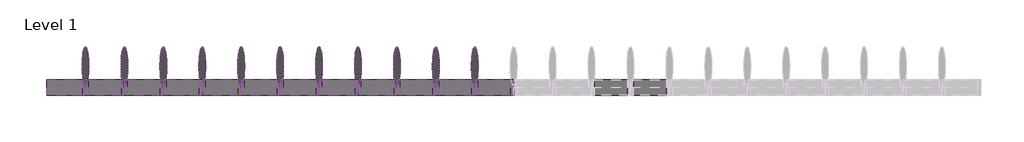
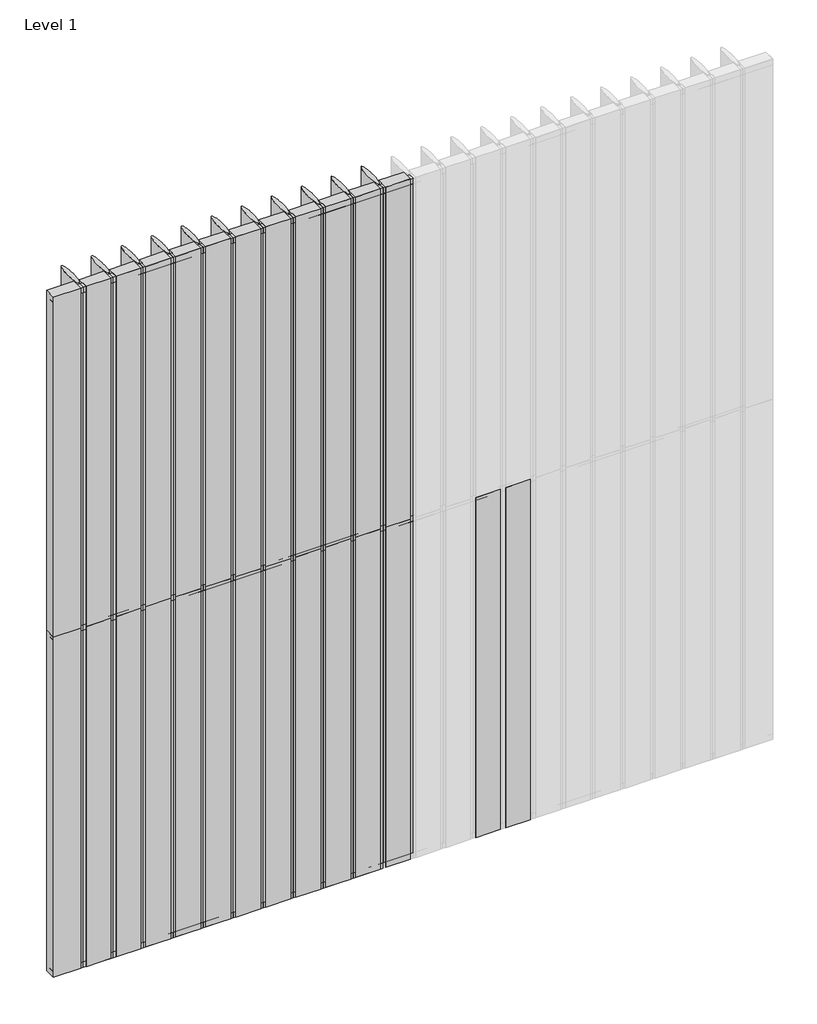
# One storey, part 1 of 2: 57 members, 50 plates.
"""IFC4 building model written with IfcOpenShell, lengths in millimetres."""

from ifc_helpers import new_model, si_unit, origin, place, context, project, spatial, transform, mapped, element, save
from components import rectangular_mullion_1c901da9, rectangular_mullion_eeaea343, rectangular_mullion_b779000f, rectangular_mullion_552ac5bc, empty_system_panel_empty_666dd941, empty_system_panel_empty_d58eecfa, empty_system_panel_empty_93422e2e

model = new_model("IFC4")

# Units and contexts
model_context = context("Model", 3, world=origin())
ifc_project = project(units=[si_unit("LENGTHUNIT", "METRE", prefix="MILLI")], contexts=[model_context])

# Site, building, storey
site = spatial("IfcSite", under=ifc_project)
building = spatial("IfcBuilding", under=site)
storey = spatial("IfcBuildingStorey", under=building, Name="Level 1", Elevation=0.0)

# Members
placement = place(None, origin())
rectangular_mullion_shape = rectangular_mullion_1c901da9(model_context)
element("IfcMember", 1, ObjectType="Rectangular Mullion : RSen_21_CWM_blade - 250 ellips - 0°_gen_duco projects", at=placement, inside=storey, context=model_context, shape_type="MappedRepresentation", body=[
    mapped(rectangular_mullion_shape, transform((2750.0, 3000.0, 0.0), x_axis=(-1.0, 0.0, 0.0), y_axis=(0.0, 1.0, 0.0), z_axis=(0.0, 0.0, -1.0))),
])
element("IfcMember", 2, ObjectType="Rectangular Mullion : RSen_21_CWM_blade - 250 ellips - 0°_gen_duco projects", at=placement, inside=storey, context=model_context, shape_type="MappedRepresentation", body=[
    mapped(rectangular_mullion_shape, transform((2500.0, 3000.0, 0.0), x_axis=(-1.0, 0.0, 0.0), y_axis=(0.0, 1.0, 0.0), z_axis=(0.0, 0.0, -1.0))),
])
element("IfcMember", 3, ObjectType="Rectangular Mullion : RSen_21_CWM_blade - 250 ellips - 0°_gen_duco projects", at=placement, inside=storey, context=model_context, shape_type="MappedRepresentation", body=[
    mapped(rectangular_mullion_shape, transform((2250.0, 3000.0, 0.0), x_axis=(-1.0, 0.0, 0.0), y_axis=(0.0, 1.0, 0.0), z_axis=(0.0, 0.0, -1.0))),
])
element("IfcMember", 4, ObjectType="Rectangular Mullion : RSen_21_CWM_blade - 250 ellips - 0°_gen_duco projects", at=placement, inside=storey, context=model_context, shape_type="MappedRepresentation", body=[
    mapped(rectangular_mullion_shape, transform((2000.0, 3000.0, 0.0), x_axis=(-1.0, 0.0, 0.0), y_axis=(0.0, 1.0, 0.0), z_axis=(0.0, 0.0, -1.0))),
])
element("IfcMember", 5, ObjectType="Rectangular Mullion : RSen_21_CWM_blade - 250 ellips - 0°_gen_duco projects", at=placement, inside=storey, context=model_context, shape_type="MappedRepresentation", body=[
    mapped(rectangular_mullion_shape, transform((1750.0, 3000.0, 0.0), x_axis=(-1.0, 0.0, 0.0), y_axis=(0.0, 1.0, 0.0), z_axis=(0.0, 0.0, -1.0))),
])
element("IfcMember", 6, ObjectType="Rectangular Mullion : RSen_21_CWM_blade - 250 ellips - 0°_gen_duco projects", at=placement, inside=storey, context=model_context, shape_type="MappedRepresentation", body=[
    mapped(rectangular_mullion_shape, transform((1500.0, 3000.0, 0.0), x_axis=(-1.0, 0.0, 0.0), y_axis=(0.0, 1.0, 0.0), z_axis=(0.0, 0.0, -1.0))),
])
element("IfcMember", 7, ObjectType="Rectangular Mullion : RSen_21_CWM_blade - 250 ellips - 0°_gen_duco projects", at=placement, inside=storey, context=model_context, shape_type="MappedRepresentation", body=[
    mapped(rectangular_mullion_shape, transform((1250.0, 3000.0, 0.0), x_axis=(-1.0, 0.0, 0.0), y_axis=(0.0, 1.0, 0.0), z_axis=(0.0, 0.0, -1.0))),
])
element("IfcMember", 8, ObjectType="Rectangular Mullion : RSen_21_CWM_blade - 250 ellips - 0°_gen_duco projects", at=placement, inside=storey, context=model_context, shape_type="MappedRepresentation", body=[
    mapped(rectangular_mullion_shape, transform((1000.0, 3000.0, 0.0), x_axis=(-1.0, 0.0, 0.0), y_axis=(0.0, 1.0, 0.0), z_axis=(0.0, 0.0, -1.0))),
])
element("IfcMember", 9, ObjectType="Rectangular Mullion : RSen_21_CWM_blade - 250 ellips - 0°_gen_duco projects", at=placement, inside=storey, context=model_context, shape_type="MappedRepresentation", body=[
    mapped(rectangular_mullion_shape, transform((750.0, 3000.0, 0.0), x_axis=(-1.0, 0.0, 0.0), y_axis=(0.0, 1.0, 0.0), z_axis=(0.0, 0.0, -1.0))),
])
element("IfcMember", 10, ObjectType="Rectangular Mullion : RSen_21_CWM_blade - 250 ellips - 0°_gen_duco projects", at=placement, inside=storey, context=model_context, shape_type="MappedRepresentation", body=[
    mapped(rectangular_mullion_shape, transform((500.0, 3000.0, 0.0), x_axis=(-1.0, 0.0, 0.0), y_axis=(0.0, 1.0, 0.0), z_axis=(0.0, 0.0, -1.0))),
])
element("IfcMember", 11, ObjectType="Rectangular Mullion : RSen_21_CWM_blade - 250 ellips - 0°_gen_duco projects", at=placement, inside=storey, context=model_context, shape_type="MappedRepresentation", body=[
    mapped(rectangular_mullion_shape, transform((250.0, 3000.0, 0.0), x_axis=(-1.0, 0.0, 0.0), y_axis=(0.0, 1.0, 0.0), z_axis=(0.0, 0.0, -1.0))),
])
element("IfcMember", 12, ObjectType="Rectangular Mullion : RSen_21_CWM_blade - 250 ellips - 0°_gen_duco projects", at=placement, inside=storey, context=model_context, shape_type="MappedRepresentation", body=[
    mapped(rectangular_mullion_shape, transform((2750.0, 3000.0, 3000.0), x_axis=(-1.0, 0.0, 0.0), y_axis=(0.0, 1.0, 0.0), z_axis=(0.0, 0.0, -1.0))),
])
element("IfcMember", 13, ObjectType="Rectangular Mullion : RSen_21_CWM_blade - 250 ellips - 0°_gen_duco projects", at=placement, inside=storey, context=model_context, shape_type="MappedRepresentation", body=[
    mapped(rectangular_mullion_shape, transform((2500.0, 3000.0, 3000.0), x_axis=(-1.0, 0.0, 0.0), y_axis=(0.0, 1.0, 0.0), z_axis=(0.0, 0.0, -1.0))),
])
element("IfcMember", 14, ObjectType="Rectangular Mullion : RSen_21_CWM_blade - 250 ellips - 0°_gen_duco projects", at=placement, inside=storey, context=model_context, shape_type="MappedRepresentation", body=[
    mapped(rectangular_mullion_shape, transform((2250.0, 3000.0, 3000.0), x_axis=(-1.0, 0.0, 0.0), y_axis=(0.0, 1.0, 0.0), z_axis=(0.0, 0.0, -1.0))),
])
element("IfcMember", 15, ObjectType="Rectangular Mullion : RSen_21_CWM_blade - 250 ellips - 0°_gen_duco projects", at=placement, inside=storey, context=model_context, shape_type="MappedRepresentation", body=[
    mapped(rectangular_mullion_shape, transform((2000.0, 3000.0, 3000.0), x_axis=(-1.0, 0.0, 0.0), y_axis=(0.0, 1.0, 0.0), z_axis=(0.0, 0.0, -1.0))),
])
element("IfcMember", 16, ObjectType="Rectangular Mullion : RSen_21_CWM_blade - 250 ellips - 0°_gen_duco projects", at=placement, inside=storey, context=model_context, shape_type="MappedRepresentation", body=[
    mapped(rectangular_mullion_shape, transform((1750.0, 3000.0, 3000.0), x_axis=(-1.0, 0.0, 0.0), y_axis=(0.0, 1.0, 0.0), z_axis=(0.0, 0.0, -1.0))),
])
element("IfcMember", 17, ObjectType="Rectangular Mullion : RSen_21_CWM_blade - 250 ellips - 0°_gen_duco projects", at=placement, inside=storey, context=model_context, shape_type="MappedRepresentation", body=[
    mapped(rectangular_mullion_shape, transform((1500.0, 3000.0, 3000.0), x_axis=(-1.0, 0.0, 0.0), y_axis=(0.0, 1.0, 0.0), z_axis=(0.0, 0.0, -1.0))),
])
element("IfcMember", 18, ObjectType="Rectangular Mullion : RSen_21_CWM_blade - 250 ellips - 0°_gen_duco projects", at=placement, inside=storey, context=model_context, shape_type="MappedRepresentation", body=[
    mapped(rectangular_mullion_shape, transform((1250.0, 3000.0, 3000.0), x_axis=(-1.0, 0.0, 0.0), y_axis=(0.0, 1.0, 0.0), z_axis=(0.0, 0.0, -1.0))),
])
element("IfcMember", 19, ObjectType="Rectangular Mullion : RSen_21_CWM_blade - 250 ellips - 0°_gen_duco projects", at=placement, inside=storey, context=model_context, shape_type="MappedRepresentation", body=[
    mapped(rectangular_mullion_shape, transform((1000.0, 3000.0, 3000.0), x_axis=(-1.0, 0.0, 0.0), y_axis=(0.0, 1.0, 0.0), z_axis=(0.0, 0.0, -1.0))),
])
element("IfcMember", 20, ObjectType="Rectangular Mullion : RSen_21_CWM_blade - 250 ellips - 0°_gen_duco projects", at=placement, inside=storey, context=model_context, shape_type="MappedRepresentation", body=[
    mapped(rectangular_mullion_shape, transform((750.0, 3000.0, 3000.0), x_axis=(-1.0, 0.0, 0.0), y_axis=(0.0, 1.0, 0.0), z_axis=(0.0, 0.0, -1.0))),
])
element("IfcMember", 21, ObjectType="Rectangular Mullion : RSen_21_CWM_blade - 250 ellips - 0°_gen_duco projects", at=placement, inside=storey, context=model_context, shape_type="MappedRepresentation", body=[
    mapped(rectangular_mullion_shape, transform((500.0, 3000.0, 3000.0), x_axis=(-1.0, 0.0, 0.0), y_axis=(0.0, 1.0, 0.0), z_axis=(0.0, 0.0, -1.0))),
])
element("IfcMember", 22, ObjectType="Rectangular Mullion : RSen_21_CWM_blade - 250 ellips - 0°_gen_duco projects", at=placement, inside=storey, context=model_context, shape_type="MappedRepresentation", body=[
    mapped(rectangular_mullion_shape, transform((250.0, 3000.0, 3000.0), x_axis=(-1.0, 0.0, 0.0), y_axis=(0.0, 1.0, 0.0), z_axis=(0.0, 0.0, -1.0))),
])
rectangular_mullion_2_shape = rectangular_mullion_eeaea343(model_context)
element("IfcMember", 23, ObjectType="Rectangular Mullion : RSen_21_CWM_support profile 50x50 - left_gen_duco projects", at=placement, inside=storey, context=model_context, shape_type="MappedRepresentation", body=[
    mapped(rectangular_mullion_2_shape, transform((0.0, 3000.0, 6000.0), x_axis=(0.0, 0.0, 1.0), y_axis=(0.0, 1.0, 0.0), z_axis=(-1.0, 0.0, 0.0))),
])
element("IfcMember", 24, ObjectType="Rectangular Mullion : RSen_21_CWM_support profile 50x50 - left_gen_duco projects", at=placement, inside=storey, context=model_context, shape_type="MappedRepresentation", body=[
    mapped(rectangular_mullion_2_shape, transform((2750.0, 3000.0, 6000.0), x_axis=(0.0, 0.0, 1.0), y_axis=(0.0, 1.0, 0.0), z_axis=(-1.0, 0.0, 0.0))),
])
element("IfcMember", 25, ObjectType="Rectangular Mullion : RSen_21_CWM_support profile 50x50 - left_gen_duco projects", at=placement, inside=storey, context=model_context, shape_type="MappedRepresentation", body=[
    mapped(rectangular_mullion_2_shape, transform((2500.0, 3000.0, 6000.0), x_axis=(0.0, 0.0, 1.0), y_axis=(0.0, 1.0, 0.0), z_axis=(-1.0, 0.0, 0.0))),
])
element("IfcMember", 26, ObjectType="Rectangular Mullion : RSen_21_CWM_support profile 50x50 - left_gen_duco projects", at=placement, inside=storey, context=model_context, shape_type="MappedRepresentation", body=[
    mapped(rectangular_mullion_2_shape, transform((2250.0, 3000.0, 6000.0), x_axis=(0.0, 0.0, 1.0), y_axis=(0.0, 1.0, 0.0), z_axis=(-1.0, 0.0, 0.0))),
])
element("IfcMember", 27, ObjectType="Rectangular Mullion : RSen_21_CWM_support profile 50x50 - left_gen_duco projects", at=placement, inside=storey, context=model_context, shape_type="MappedRepresentation", body=[
    mapped(rectangular_mullion_2_shape, transform((2000.0, 3000.0, 6000.0), x_axis=(0.0, 0.0, 1.0), y_axis=(0.0, 1.0, 0.0), z_axis=(-1.0, 0.0, 0.0))),
])
element("IfcMember", 28, ObjectType="Rectangular Mullion : RSen_21_CWM_support profile 50x50 - left_gen_duco projects", at=placement, inside=storey, context=model_context, shape_type="MappedRepresentation", body=[
    mapped(rectangular_mullion_2_shape, transform((1750.0, 3000.0, 6000.0), x_axis=(0.0, 0.0, 1.0), y_axis=(0.0, 1.0, 0.0), z_axis=(-1.0, 0.0, 0.0))),
])
element("IfcMember", 29, ObjectType="Rectangular Mullion : RSen_21_CWM_support profile 50x50 - left_gen_duco projects", at=placement, inside=storey, context=model_context, shape_type="MappedRepresentation", body=[
    mapped(rectangular_mullion_2_shape, transform((1500.0, 3000.0, 6000.0), x_axis=(0.0, 0.0, 1.0), y_axis=(0.0, 1.0, 0.0), z_axis=(-1.0, 0.0, 0.0))),
])
element("IfcMember", 30, ObjectType="Rectangular Mullion : RSen_21_CWM_support profile 50x50 - left_gen_duco projects", at=placement, inside=storey, context=model_context, shape_type="MappedRepresentation", body=[
    mapped(rectangular_mullion_2_shape, transform((1250.0, 3000.0, 6000.0), x_axis=(0.0, 0.0, 1.0), y_axis=(0.0, 1.0, 0.0), z_axis=(-1.0, 0.0, 0.0))),
])
element("IfcMember", 31, ObjectType="Rectangular Mullion : RSen_21_CWM_support profile 50x50 - left_gen_duco projects", at=placement, inside=storey, context=model_context, shape_type="MappedRepresentation", body=[
    mapped(rectangular_mullion_2_shape, transform((1000.0, 3000.0, 6000.0), x_axis=(0.0, 0.0, 1.0), y_axis=(0.0, 1.0, 0.0), z_axis=(-1.0, 0.0, 0.0))),
])
element("IfcMember", 32, ObjectType="Rectangular Mullion : RSen_21_CWM_support profile 50x50 - left_gen_duco projects", at=placement, inside=storey, context=model_context, shape_type="MappedRepresentation", body=[
    mapped(rectangular_mullion_2_shape, transform((750.0, 3000.0, 6000.0), x_axis=(0.0, 0.0, 1.0), y_axis=(0.0, 1.0, 0.0), z_axis=(-1.0, 0.0, 0.0))),
])
element("IfcMember", 33, ObjectType="Rectangular Mullion : RSen_21_CWM_support profile 50x50 - left_gen_duco projects", at=placement, inside=storey, context=model_context, shape_type="MappedRepresentation", body=[
    mapped(rectangular_mullion_2_shape, transform((500.0, 3000.0, 6000.0), x_axis=(0.0, 0.0, 1.0), y_axis=(0.0, 1.0, 0.0), z_axis=(-1.0, 0.0, 0.0))),
])
element("IfcMember", 34, ObjectType="Rectangular Mullion : RSen_21_CWM_support profile 50x50 - left_gen_duco projects", at=placement, inside=storey, context=model_context, shape_type="MappedRepresentation", body=[
    mapped(rectangular_mullion_2_shape, transform((250.0, 3000.0, 6000.0), x_axis=(0.0, 0.0, 1.0), y_axis=(0.0, 1.0, 0.0), z_axis=(-1.0, 0.0, 0.0))),
])
rectangular_mullion_3_shape = rectangular_mullion_b779000f(model_context)
element("IfcMember", 35, ObjectType="Rectangular Mullion : RSen_21_CWM_support profile 50x50 - right_gen_duco projects", at=placement, inside=storey, context=model_context, shape_type="MappedRepresentation", body=[
    mapped(rectangular_mullion_3_shape, transform((2750.0, 3000.0, 0.0), x_axis=(0.0, 0.0, -1.0), y_axis=(0.0, 1.0, 0.0), z_axis=(1.0, 0.0, 0.0))),
])
element("IfcMember", 36, ObjectType="Rectangular Mullion : RSen_21_CWM_support profile 50x50 - right_gen_duco projects", at=placement, inside=storey, context=model_context, shape_type="MappedRepresentation", body=[
    mapped(rectangular_mullion_3_shape, transform((2500.0, 3000.0, 0.0), x_axis=(0.0, 0.0, -1.0), y_axis=(0.0, 1.0, 0.0), z_axis=(1.0, 0.0, 0.0))),
])
element("IfcMember", 37, ObjectType="Rectangular Mullion : RSen_21_CWM_support profile 50x50 - right_gen_duco projects", at=placement, inside=storey, context=model_context, shape_type="MappedRepresentation", body=[
    mapped(rectangular_mullion_3_shape, transform((2250.0, 3000.0, 0.0), x_axis=(0.0, 0.0, -1.0), y_axis=(0.0, 1.0, 0.0), z_axis=(1.0, 0.0, 0.0))),
])
element("IfcMember", 38, ObjectType="Rectangular Mullion : RSen_21_CWM_support profile 50x50 - right_gen_duco projects", at=placement, inside=storey, context=model_context, shape_type="MappedRepresentation", body=[
    mapped(rectangular_mullion_3_shape, transform((2000.0, 3000.0, 0.0), x_axis=(0.0, 0.0, -1.0), y_axis=(0.0, 1.0, 0.0), z_axis=(1.0, 0.0, 0.0))),
])
element("IfcMember", 39, ObjectType="Rectangular Mullion : RSen_21_CWM_support profile 50x50 - right_gen_duco projects", at=placement, inside=storey, context=model_context, shape_type="MappedRepresentation", body=[
    mapped(rectangular_mullion_3_shape, transform((1750.0, 3000.0, 0.0), x_axis=(0.0, 0.0, -1.0), y_axis=(0.0, 1.0, 0.0), z_axis=(1.0, 0.0, 0.0))),
])
element("IfcMember", 40, ObjectType="Rectangular Mullion : RSen_21_CWM_support profile 50x50 - right_gen_duco projects", at=placement, inside=storey, context=model_context, shape_type="MappedRepresentation", body=[
    mapped(rectangular_mullion_3_shape, transform((1500.0, 3000.0, 0.0), x_axis=(0.0, 0.0, -1.0), y_axis=(0.0, 1.0, 0.0), z_axis=(1.0, 0.0, 0.0))),
])
element("IfcMember", 41, ObjectType="Rectangular Mullion : RSen_21_CWM_support profile 50x50 - right_gen_duco projects", at=placement, inside=storey, context=model_context, shape_type="MappedRepresentation", body=[
    mapped(rectangular_mullion_3_shape, transform((1250.0, 3000.0, 0.0), x_axis=(0.0, 0.0, -1.0), y_axis=(0.0, 1.0, 0.0), z_axis=(1.0, 0.0, 0.0))),
])
element("IfcMember", 42, ObjectType="Rectangular Mullion : RSen_21_CWM_support profile 50x50 - right_gen_duco projects", at=placement, inside=storey, context=model_context, shape_type="MappedRepresentation", body=[
    mapped(rectangular_mullion_3_shape, transform((1000.0, 3000.0, 0.0), x_axis=(0.0, 0.0, -1.0), y_axis=(0.0, 1.0, 0.0), z_axis=(1.0, 0.0, 0.0))),
])
element("IfcMember", 43, ObjectType="Rectangular Mullion : RSen_21_CWM_support profile 50x50 - right_gen_duco projects", at=placement, inside=storey, context=model_context, shape_type="MappedRepresentation", body=[
    mapped(rectangular_mullion_3_shape, transform((750.0, 3000.0, 0.0), x_axis=(0.0, 0.0, -1.0), y_axis=(0.0, 1.0, 0.0), z_axis=(1.0, 0.0, 0.0))),
])
element("IfcMember", 44, ObjectType="Rectangular Mullion : RSen_21_CWM_support profile 50x50 - right_gen_duco projects", at=placement, inside=storey, context=model_context, shape_type="MappedRepresentation", body=[
    mapped(rectangular_mullion_3_shape, transform((500.0, 3000.0, 0.0), x_axis=(0.0, 0.0, -1.0), y_axis=(0.0, 1.0, 0.0), z_axis=(1.0, 0.0, 0.0))),
])
element("IfcMember", 45, ObjectType="Rectangular Mullion : RSen_21_CWM_support profile 50x50 - right_gen_duco projects", at=placement, inside=storey, context=model_context, shape_type="MappedRepresentation", body=[
    mapped(rectangular_mullion_3_shape, transform((250.0, 3000.0, 0.0), x_axis=(0.0, 0.0, -1.0), y_axis=(0.0, 1.0, 0.0), z_axis=(1.0, 0.0, 0.0))),
])
rectangular_mullion_4_shape = rectangular_mullion_552ac5bc(model_context)
element("IfcMember", 46, ObjectType="Rectangular Mullion : RSen_21_CWM_support profile 50x50_gen_duco projects", at=placement, inside=storey, context=model_context, shape_type="MappedRepresentation", body=[
    mapped(rectangular_mullion_4_shape, transform((2750.0, 3000.0, 3000.0), x_axis=(0.0, 0.0, 1.0), y_axis=(0.0, 1.0, 0.0), z_axis=(-1.0, 0.0, 0.0))),
])
element("IfcMember", 47, ObjectType="Rectangular Mullion : RSen_21_CWM_support profile 50x50_gen_duco projects", at=placement, inside=storey, context=model_context, shape_type="MappedRepresentation", body=[
    mapped(rectangular_mullion_4_shape, transform((2500.0, 3000.0, 3000.0), x_axis=(0.0, 0.0, 1.0), y_axis=(0.0, 1.0, 0.0), z_axis=(-1.0, 0.0, 0.0))),
])
element("IfcMember", 48, ObjectType="Rectangular Mullion : RSen_21_CWM_support profile 50x50_gen_duco projects", at=placement, inside=storey, context=model_context, shape_type="MappedRepresentation", body=[
    mapped(rectangular_mullion_4_shape, transform((2250.0, 3000.0, 3000.0), x_axis=(0.0, 0.0, 1.0), y_axis=(0.0, 1.0, 0.0), z_axis=(-1.0, 0.0, 0.0))),
])
element("IfcMember", 49, ObjectType="Rectangular Mullion : RSen_21_CWM_support profile 50x50_gen_duco projects", at=placement, inside=storey, context=model_context, shape_type="MappedRepresentation", body=[
    mapped(rectangular_mullion_4_shape, transform((2000.0, 3000.0, 3000.0), x_axis=(0.0, 0.0, 1.0), y_axis=(0.0, 1.0, 0.0), z_axis=(-1.0, 0.0, 0.0))),
])
element("IfcMember", 50, ObjectType="Rectangular Mullion : RSen_21_CWM_support profile 50x50_gen_duco projects", at=placement, inside=storey, context=model_context, shape_type="MappedRepresentation", body=[
    mapped(rectangular_mullion_4_shape, transform((1750.0, 3000.0, 3000.0), x_axis=(0.0, 0.0, 1.0), y_axis=(0.0, 1.0, 0.0), z_axis=(-1.0, 0.0, 0.0))),
])
element("IfcMember", 51, ObjectType="Rectangular Mullion : RSen_21_CWM_support profile 50x50_gen_duco projects", at=placement, inside=storey, context=model_context, shape_type="MappedRepresentation", body=[
    mapped(rectangular_mullion_4_shape, transform((1500.0, 3000.0, 3000.0), x_axis=(0.0, 0.0, 1.0), y_axis=(0.0, 1.0, 0.0), z_axis=(-1.0, 0.0, 0.0))),
])
element("IfcMember", 52, ObjectType="Rectangular Mullion : RSen_21_CWM_support profile 50x50_gen_duco projects", at=placement, inside=storey, context=model_context, shape_type="MappedRepresentation", body=[
    mapped(rectangular_mullion_4_shape, transform((1250.0, 3000.0, 3000.0), x_axis=(0.0, 0.0, 1.0), y_axis=(0.0, 1.0, 0.0), z_axis=(-1.0, 0.0, 0.0))),
])
element("IfcMember", 53, ObjectType="Rectangular Mullion : RSen_21_CWM_support profile 50x50_gen_duco projects", at=placement, inside=storey, context=model_context, shape_type="MappedRepresentation", body=[
    mapped(rectangular_mullion_4_shape, transform((1000.0, 3000.0, 3000.0), x_axis=(0.0, 0.0, 1.0), y_axis=(0.0, 1.0, 0.0), z_axis=(-1.0, 0.0, 0.0))),
])
element("IfcMember", 54, ObjectType="Rectangular Mullion : RSen_21_CWM_support profile 50x50_gen_duco projects", at=placement, inside=storey, context=model_context, shape_type="MappedRepresentation", body=[
    mapped(rectangular_mullion_4_shape, transform((750.0, 3000.0, 3000.0), x_axis=(0.0, 0.0, 1.0), y_axis=(0.0, 1.0, 0.0), z_axis=(-1.0, 0.0, 0.0))),
])
element("IfcMember", 55, ObjectType="Rectangular Mullion : RSen_21_CWM_support profile 50x50_gen_duco projects", at=placement, inside=storey, context=model_context, shape_type="MappedRepresentation", body=[
    mapped(rectangular_mullion_4_shape, transform((500.0, 3000.0, 3000.0), x_axis=(0.0, 0.0, 1.0), y_axis=(0.0, 1.0, 0.0), z_axis=(-1.0, 0.0, 0.0))),
])
element("IfcMember", 56, ObjectType="Rectangular Mullion : RSen_21_CWM_support profile 50x50_gen_duco projects", at=placement, inside=storey, context=model_context, shape_type="MappedRepresentation", body=[
    mapped(rectangular_mullion_4_shape, transform((250.0, 3000.0, 3000.0), x_axis=(0.0, 0.0, 1.0), y_axis=(0.0, 1.0, 0.0), z_axis=(-1.0, 0.0, 0.0))),
])
element("IfcMember", 57, ObjectType="Rectangular Mullion : RSen_21_CWM_support profile 50x50_gen_duco projects", at=placement, inside=storey, context=model_context, shape_type="MappedRepresentation", body=[
    mapped(rectangular_mullion_4_shape, transform((0.0, 3000.0, 3000.0), x_axis=(0.0, 0.0, 1.0), y_axis=(0.0, 1.0, 0.0), z_axis=(-1.0, 0.0, 0.0))),
])

# Plates
empty_system_panel_empty_shape = empty_system_panel_empty_666dd941(model_context)
element("IfcPlate", 58, ObjectType="Empty System Panel : Empty", at=placement, inside=storey, context=model_context, shape_type="MappedRepresentation", body=[
    mapped(empty_system_panel_empty_shape, transform((114.125, 3000.0, 0.0), x_axis=(-1.0, 0.0, 0.0), y_axis=(0.0, -1.0, 0.0), z_axis=(0.0, 0.0, 1.0))),
])
element("IfcPlate", 59, ObjectType="Empty System Panel : Empty", at=placement, inside=storey, context=model_context, shape_type="MappedRepresentation", body=[
    mapped(empty_system_panel_empty_shape, transform((114.125, 3000.0, 3000.0), x_axis=(-1.0, 0.0, 0.0), y_axis=(0.0, -1.0, 0.0), z_axis=(0.0, 0.0, 1.0))),
])
empty_system_panel_empty_2_shape = empty_system_panel_empty_d58eecfa(model_context)
element("IfcPlate", 60, ObjectType="Empty System Panel : Empty", at=placement, inside=storey, context=model_context, shape_type="MappedRepresentation", body=[
    mapped(empty_system_panel_empty_2_shape, transform((3875.0, 3000.0, 0.0), x_axis=(-1.0, 0.0, 0.0), y_axis=(0.0, -1.0, 0.0), z_axis=(0.0, 0.0, 1.0))),
])
element("IfcPlate", 61, ObjectType="Empty System Panel : Empty", at=placement, inside=storey, context=model_context, shape_type="MappedRepresentation", body=[
    mapped(empty_system_panel_empty_2_shape, transform((3625.0, 3000.0, 0.0), x_axis=(-1.0, 0.0, 0.0), y_axis=(0.0, -1.0, 0.0), z_axis=(0.0, 0.0, 1.0))),
])
element("IfcPlate", 62, ObjectType="Empty System Panel : Empty", at=placement, inside=storey, context=model_context, shape_type="MappedRepresentation", body=[
    mapped(empty_system_panel_empty_2_shape, transform((2875.0, 3000.0, 0.0), x_axis=(-1.0, 0.0, 0.0), y_axis=(0.0, -1.0, 0.0), z_axis=(0.0, 0.0, 1.0))),
])
element("IfcPlate", 63, ObjectType="Empty System Panel : Empty", at=placement, inside=storey, context=model_context, shape_type="MappedRepresentation", body=[
    mapped(empty_system_panel_empty_2_shape, transform((2625.0, 3000.0, 0.0), x_axis=(-1.0, 0.0, 0.0), y_axis=(0.0, -1.0, 0.0), z_axis=(0.0, 0.0, 1.0))),
])
element("IfcPlate", 64, ObjectType="Empty System Panel : Empty", at=placement, inside=storey, context=model_context, shape_type="MappedRepresentation", body=[
    mapped(empty_system_panel_empty_2_shape, transform((2375.0, 3000.0, 0.0), x_axis=(-1.0, 0.0, 0.0), y_axis=(0.0, -1.0, 0.0), z_axis=(0.0, 0.0, 1.0))),
])
element("IfcPlate", 65, ObjectType="Empty System Panel : Empty", at=placement, inside=storey, context=model_context, shape_type="MappedRepresentation", body=[
    mapped(empty_system_panel_empty_2_shape, transform((2125.0, 3000.0, 0.0), x_axis=(-1.0, 0.0, 0.0), y_axis=(0.0, -1.0, 0.0), z_axis=(0.0, 0.0, 1.0))),
])
element("IfcPlate", 66, ObjectType="Empty System Panel : Empty", at=placement, inside=storey, context=model_context, shape_type="MappedRepresentation", body=[
    mapped(empty_system_panel_empty_2_shape, transform((1875.0, 3000.0, 0.0), x_axis=(-1.0, 0.0, 0.0), y_axis=(0.0, -1.0, 0.0), z_axis=(0.0, 0.0, 1.0))),
])
element("IfcPlate", 67, ObjectType="Empty System Panel : Empty", at=placement, inside=storey, context=model_context, shape_type="MappedRepresentation", body=[
    mapped(empty_system_panel_empty_2_shape, transform((1625.0, 3000.0, 0.0), x_axis=(-1.0, 0.0, 0.0), y_axis=(0.0, -1.0, 0.0), z_axis=(0.0, 0.0, 1.0))),
])
element("IfcPlate", 68, ObjectType="Empty System Panel : Empty", at=placement, inside=storey, context=model_context, shape_type="MappedRepresentation", body=[
    mapped(empty_system_panel_empty_2_shape, transform((1375.0, 3000.0, 0.0), x_axis=(-1.0, 0.0, 0.0), y_axis=(0.0, -1.0, 0.0), z_axis=(0.0, 0.0, 1.0))),
])
element("IfcPlate", 69, ObjectType="Empty System Panel : Empty", at=placement, inside=storey, context=model_context, shape_type="MappedRepresentation", body=[
    mapped(empty_system_panel_empty_2_shape, transform((1125.0, 3000.0, 0.0), x_axis=(-1.0, 0.0, 0.0), y_axis=(0.0, -1.0, 0.0), z_axis=(0.0, 0.0, 1.0))),
])
element("IfcPlate", 70, ObjectType="Empty System Panel : Empty", at=placement, inside=storey, context=model_context, shape_type="MappedRepresentation", body=[
    mapped(empty_system_panel_empty_2_shape, transform((875.0, 3000.0, 0.0), x_axis=(-1.0, 0.0, 0.0), y_axis=(0.0, -1.0, 0.0), z_axis=(0.0, 0.0, 1.0))),
])
element("IfcPlate", 71, ObjectType="Empty System Panel : Empty", at=placement, inside=storey, context=model_context, shape_type="MappedRepresentation", body=[
    mapped(empty_system_panel_empty_2_shape, transform((625.0, 3000.0, 0.0), x_axis=(-1.0, 0.0, 0.0), y_axis=(0.0, -1.0, 0.0), z_axis=(0.0, 0.0, 1.0))),
])
element("IfcPlate", 72, ObjectType="Empty System Panel : Empty", at=placement, inside=storey, context=model_context, shape_type="MappedRepresentation", body=[
    mapped(empty_system_panel_empty_2_shape, transform((375.0, 3000.0, 0.0), x_axis=(-1.0, 0.0, 0.0), y_axis=(0.0, -1.0, 0.0), z_axis=(0.0, 0.0, 1.0))),
])
element("IfcPlate", 73, ObjectType="Empty System Panel : Empty", at=placement, inside=storey, context=model_context, shape_type="MappedRepresentation", body=[
    mapped(empty_system_panel_empty_2_shape, transform((2875.0, 3000.0, 3000.0), x_axis=(-1.0, 0.0, 0.0), y_axis=(0.0, -1.0, 0.0), z_axis=(0.0, 0.0, 1.0))),
])
element("IfcPlate", 74, ObjectType="Empty System Panel : Empty", at=placement, inside=storey, context=model_context, shape_type="MappedRepresentation", body=[
    mapped(empty_system_panel_empty_2_shape, transform((2625.0, 3000.0, 3000.0), x_axis=(-1.0, 0.0, 0.0), y_axis=(0.0, -1.0, 0.0), z_axis=(0.0, 0.0, 1.0))),
])
element("IfcPlate", 75, ObjectType="Empty System Panel : Empty", at=placement, inside=storey, context=model_context, shape_type="MappedRepresentation", body=[
    mapped(empty_system_panel_empty_2_shape, transform((2375.0, 3000.0, 3000.0), x_axis=(-1.0, 0.0, 0.0), y_axis=(0.0, -1.0, 0.0), z_axis=(0.0, 0.0, 1.0))),
])
element("IfcPlate", 76, ObjectType="Empty System Panel : Empty", at=placement, inside=storey, context=model_context, shape_type="MappedRepresentation", body=[
    mapped(empty_system_panel_empty_2_shape, transform((2125.0, 3000.0, 3000.0), x_axis=(-1.0, 0.0, 0.0), y_axis=(0.0, -1.0, 0.0), z_axis=(0.0, 0.0, 1.0))),
])
element("IfcPlate", 77, ObjectType="Empty System Panel : Empty", at=placement, inside=storey, context=model_context, shape_type="MappedRepresentation", body=[
    mapped(empty_system_panel_empty_2_shape, transform((1875.0, 3000.0, 3000.0), x_axis=(-1.0, 0.0, 0.0), y_axis=(0.0, -1.0, 0.0), z_axis=(0.0, 0.0, 1.0))),
])
element("IfcPlate", 78, ObjectType="Empty System Panel : Empty", at=placement, inside=storey, context=model_context, shape_type="MappedRepresentation", body=[
    mapped(empty_system_panel_empty_2_shape, transform((1625.0, 3000.0, 3000.0), x_axis=(-1.0, 0.0, 0.0), y_axis=(0.0, -1.0, 0.0), z_axis=(0.0, 0.0, 1.0))),
])
element("IfcPlate", 79, ObjectType="Empty System Panel : Empty", at=placement, inside=storey, context=model_context, shape_type="MappedRepresentation", body=[
    mapped(empty_system_panel_empty_2_shape, transform((1375.0, 3000.0, 3000.0), x_axis=(-1.0, 0.0, 0.0), y_axis=(0.0, -1.0, 0.0), z_axis=(0.0, 0.0, 1.0))),
])
element("IfcPlate", 80, ObjectType="Empty System Panel : Empty", at=placement, inside=storey, context=model_context, shape_type="MappedRepresentation", body=[
    mapped(empty_system_panel_empty_2_shape, transform((1125.0, 3000.0, 3000.0), x_axis=(-1.0, 0.0, 0.0), y_axis=(0.0, -1.0, 0.0), z_axis=(0.0, 0.0, 1.0))),
])
element("IfcPlate", 81, ObjectType="Empty System Panel : Empty", at=placement, inside=storey, context=model_context, shape_type="MappedRepresentation", body=[
    mapped(empty_system_panel_empty_2_shape, transform((875.0, 3000.0, 3000.0), x_axis=(-1.0, 0.0, 0.0), y_axis=(0.0, -1.0, 0.0), z_axis=(0.0, 0.0, 1.0))),
])
element("IfcPlate", 82, ObjectType="Empty System Panel : Empty", at=placement, inside=storey, context=model_context, shape_type="MappedRepresentation", body=[
    mapped(empty_system_panel_empty_2_shape, transform((625.0, 3000.0, 3000.0), x_axis=(-1.0, 0.0, 0.0), y_axis=(0.0, -1.0, 0.0), z_axis=(0.0, 0.0, 1.0))),
])
element("IfcPlate", 83, ObjectType="Empty System Panel : Empty", at=placement, inside=storey, context=model_context, shape_type="MappedRepresentation", body=[
    mapped(empty_system_panel_empty_2_shape, transform((375.0, 3000.0, 3000.0), x_axis=(-1.0, 0.0, 0.0), y_axis=(0.0, -1.0, 0.0), z_axis=(0.0, 0.0, 1.0))),
])
empty_system_panel_empty_3_shape = empty_system_panel_empty_93422e2e(model_context)
element("IfcPlate", 84, ObjectType="Empty System Panel : Empty", at=placement, inside=storey, context=model_context, shape_type="MappedRepresentation", body=[
    mapped(empty_system_panel_empty_3_shape, transform((2875.0, 3000.0, 50.0), x_axis=(-1.0, 0.0, 0.0), y_axis=(0.0, -1.0, 0.0), z_axis=(0.0, 0.0, 1.0))),
])
element("IfcPlate", 85, ObjectType="Empty System Panel : Empty", at=placement, inside=storey, context=model_context, shape_type="MappedRepresentation", body=[
    mapped(empty_system_panel_empty_3_shape, transform((2625.0, 3000.0, 50.0), x_axis=(-1.0, 0.0, 0.0), y_axis=(0.0, -1.0, 0.0), z_axis=(0.0, 0.0, 1.0))),
])
element("IfcPlate", 86, ObjectType="Empty System Panel : Empty", at=placement, inside=storey, context=model_context, shape_type="MappedRepresentation", body=[
    mapped(empty_system_panel_empty_3_shape, transform((2375.0, 3000.0, 50.0), x_axis=(-1.0, 0.0, 0.0), y_axis=(0.0, -1.0, 0.0), z_axis=(0.0, 0.0, 1.0))),
])
element("IfcPlate", 87, ObjectType="Empty System Panel : Empty", at=placement, inside=storey, context=model_context, shape_type="MappedRepresentation", body=[
    mapped(empty_system_panel_empty_3_shape, transform((2125.0, 3000.0, 50.0), x_axis=(-1.0, 0.0, 0.0), y_axis=(0.0, -1.0, 0.0), z_axis=(0.0, 0.0, 1.0))),
])
element("IfcPlate", 88, ObjectType="Empty System Panel : Empty", at=placement, inside=storey, context=model_context, shape_type="MappedRepresentation", body=[
    mapped(empty_system_panel_empty_3_shape, transform((1875.0, 3000.0, 50.0), x_axis=(-1.0, 0.0, 0.0), y_axis=(0.0, -1.0, 0.0), z_axis=(0.0, 0.0, 1.0))),
])
element("IfcPlate", 89, ObjectType="Empty System Panel : Empty", at=placement, inside=storey, context=model_context, shape_type="MappedRepresentation", body=[
    mapped(empty_system_panel_empty_3_shape, transform((1625.0, 3000.0, 50.0), x_axis=(-1.0, 0.0, 0.0), y_axis=(0.0, -1.0, 0.0), z_axis=(0.0, 0.0, 1.0))),
])
element("IfcPlate", 90, ObjectType="Empty System Panel : Empty", at=placement, inside=storey, context=model_context, shape_type="MappedRepresentation", body=[
    mapped(empty_system_panel_empty_3_shape, transform((1375.0, 3000.0, 50.0), x_axis=(-1.0, 0.0, 0.0), y_axis=(0.0, -1.0, 0.0), z_axis=(0.0, 0.0, 1.0))),
])
element("IfcPlate", 91, ObjectType="Empty System Panel : Empty", at=placement, inside=storey, context=model_context, shape_type="MappedRepresentation", body=[
    mapped(empty_system_panel_empty_3_shape, transform((1125.0, 3000.0, 50.0), x_axis=(-1.0, 0.0, 0.0), y_axis=(0.0, -1.0, 0.0), z_axis=(0.0, 0.0, 1.0))),
])
element("IfcPlate", 92, ObjectType="Empty System Panel : Empty", at=placement, inside=storey, context=model_context, shape_type="MappedRepresentation", body=[
    mapped(empty_system_panel_empty_3_shape, transform((875.0, 3000.0, 50.0), x_axis=(-1.0, 0.0, 0.0), y_axis=(0.0, -1.0, 0.0), z_axis=(0.0, 0.0, 1.0))),
])
element("IfcPlate", 93, ObjectType="Empty System Panel : Empty", at=placement, inside=storey, context=model_context, shape_type="MappedRepresentation", body=[
    mapped(empty_system_panel_empty_3_shape, transform((625.0, 3000.0, 50.0), x_axis=(-1.0, 0.0, 0.0), y_axis=(0.0, -1.0, 0.0), z_axis=(0.0, 0.0, 1.0))),
])
element("IfcPlate", 94, ObjectType="Empty System Panel : Empty", at=placement, inside=storey, context=model_context, shape_type="MappedRepresentation", body=[
    mapped(empty_system_panel_empty_3_shape, transform((375.0, 3000.0, 50.0), x_axis=(-1.0, 0.0, 0.0), y_axis=(0.0, -1.0, 0.0), z_axis=(0.0, 0.0, 1.0))),
])
element("IfcPlate", 95, ObjectType="Empty System Panel : Empty", at=placement, inside=storey, context=model_context, shape_type="MappedRepresentation", body=[
    mapped(empty_system_panel_empty_3_shape, transform((125.0, 3000.0, 50.0), x_axis=(-1.0, 0.0, 0.0), y_axis=(0.0, -1.0, 0.0), z_axis=(0.0, 0.0, 1.0))),
])
element("IfcPlate", 96, ObjectType="Empty System Panel : Empty", at=placement, inside=storey, context=model_context, shape_type="MappedRepresentation", body=[
    mapped(empty_system_panel_empty_3_shape, transform((2875.0, 3000.0, 3025.0), x_axis=(-1.0, 0.0, 0.0), y_axis=(0.0, -1.0, 0.0), z_axis=(0.0, 0.0, 1.0))),
])
element("IfcPlate", 97, ObjectType="Empty System Panel : Empty", at=placement, inside=storey, context=model_context, shape_type="MappedRepresentation", body=[
    mapped(empty_system_panel_empty_3_shape, transform((2625.0, 3000.0, 3025.0), x_axis=(-1.0, 0.0, 0.0), y_axis=(0.0, -1.0, 0.0), z_axis=(0.0, 0.0, 1.0))),
])
element("IfcPlate", 98, ObjectType="Empty System Panel : Empty", at=placement, inside=storey, context=model_context, shape_type="MappedRepresentation", body=[
    mapped(empty_system_panel_empty_3_shape, transform((2375.0, 3000.0, 3025.0), x_axis=(-1.0, 0.0, 0.0), y_axis=(0.0, -1.0, 0.0), z_axis=(0.0, 0.0, 1.0))),
])
element("IfcPlate", 99, ObjectType="Empty System Panel : Empty", at=placement, inside=storey, context=model_context, shape_type="MappedRepresentation", body=[
    mapped(empty_system_panel_empty_3_shape, transform((2125.0, 3000.0, 3025.0), x_axis=(-1.0, 0.0, 0.0), y_axis=(0.0, -1.0, 0.0), z_axis=(0.0, 0.0, 1.0))),
])
element("IfcPlate", 100, ObjectType="Empty System Panel : Empty", at=placement, inside=storey, context=model_context, shape_type="MappedRepresentation", body=[
    mapped(empty_system_panel_empty_3_shape, transform((1875.0, 3000.0, 3025.0), x_axis=(-1.0, 0.0, 0.0), y_axis=(0.0, -1.0, 0.0), z_axis=(0.0, 0.0, 1.0))),
])
element("IfcPlate", 101, ObjectType="Empty System Panel : Empty", at=placement, inside=storey, context=model_context, shape_type="MappedRepresentation", body=[
    mapped(empty_system_panel_empty_3_shape, transform((1625.0, 3000.0, 3025.0), x_axis=(-1.0, 0.0, 0.0), y_axis=(0.0, -1.0, 0.0), z_axis=(0.0, 0.0, 1.0))),
])
element("IfcPlate", 102, ObjectType="Empty System Panel : Empty", at=placement, inside=storey, context=model_context, shape_type="MappedRepresentation", body=[
    mapped(empty_system_panel_empty_3_shape, transform((1375.0, 3000.0, 3025.0), x_axis=(-1.0, 0.0, 0.0), y_axis=(0.0, -1.0, 0.0), z_axis=(0.0, 0.0, 1.0))),
])
element("IfcPlate", 103, ObjectType="Empty System Panel : Empty", at=placement, inside=storey, context=model_context, shape_type="MappedRepresentation", body=[
    mapped(empty_system_panel_empty_3_shape, transform((1125.0, 3000.0, 3025.0), x_axis=(-1.0, 0.0, 0.0), y_axis=(0.0, -1.0, 0.0), z_axis=(0.0, 0.0, 1.0))),
])
element("IfcPlate", 104, ObjectType="Empty System Panel : Empty", at=placement, inside=storey, context=model_context, shape_type="MappedRepresentation", body=[
    mapped(empty_system_panel_empty_3_shape, transform((875.0, 3000.0, 3025.0), x_axis=(-1.0, 0.0, 0.0), y_axis=(0.0, -1.0, 0.0), z_axis=(0.0, 0.0, 1.0))),
])
element("IfcPlate", 105, ObjectType="Empty System Panel : Empty", at=placement, inside=storey, context=model_context, shape_type="MappedRepresentation", body=[
    mapped(empty_system_panel_empty_3_shape, transform((625.0, 3000.0, 3025.0), x_axis=(-1.0, 0.0, 0.0), y_axis=(0.0, -1.0, 0.0), z_axis=(0.0, 0.0, 1.0))),
])
element("IfcPlate", 106, ObjectType="Empty System Panel : Empty", at=placement, inside=storey, context=model_context, shape_type="MappedRepresentation", body=[
    mapped(empty_system_panel_empty_3_shape, transform((375.0, 3000.0, 3025.0), x_axis=(-1.0, 0.0, 0.0), y_axis=(0.0, -1.0, 0.0), z_axis=(0.0, 0.0, 1.0))),
])
element("IfcPlate", 107, ObjectType="Empty System Panel : Empty", at=placement, inside=storey, context=model_context, shape_type="MappedRepresentation", body=[
    mapped(empty_system_panel_empty_3_shape, transform((125.0, 3000.0, 3025.0), x_axis=(-1.0, 0.0, 0.0), y_axis=(0.0, -1.0, 0.0), z_axis=(0.0, 0.0, 1.0))),
])

save(model, "model.ifc")
